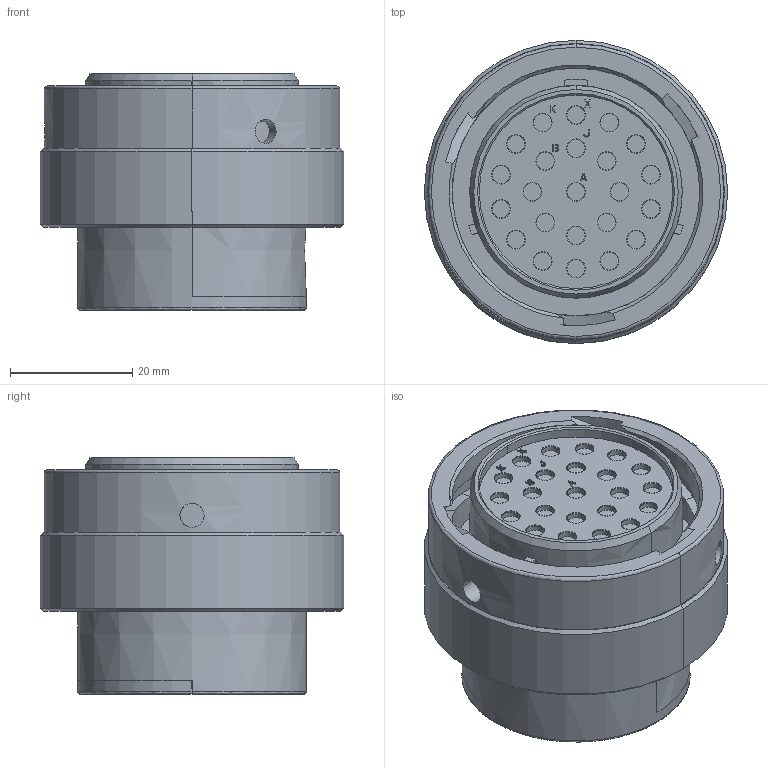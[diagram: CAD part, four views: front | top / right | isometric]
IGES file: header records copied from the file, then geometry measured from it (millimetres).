
Start section:  PTC IGES file: c-hdp26-24-23st-99-3d.igs
Global section: file name: c-hdp26-24-23st-99-3d.igs; native system: Pro/ENGINEER by Parametric Technology Corporation; preprocessor: 2011490; author: workeradm; organization: Unknown; units: millimetre
Bounding box: 49.53 x 49.53 x 38.63 mm (x, y, z)
Surface area: 13783.3 mm2 (no closed solid volume)
Topology: 0 solids, 0 shells, 571 faces, 2604 edges, 2604 vertices
Faces by surface type: revolution 335, bspline 236
